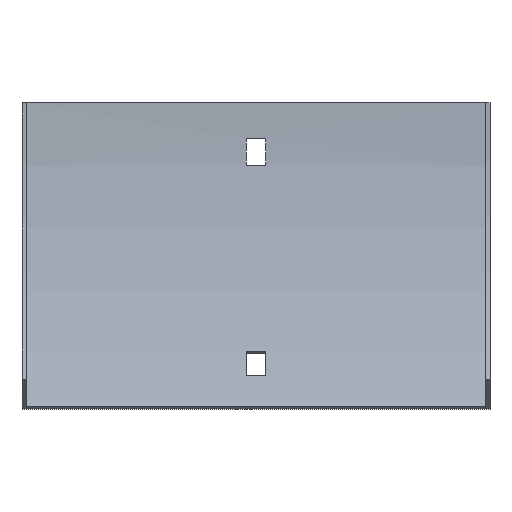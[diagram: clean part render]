
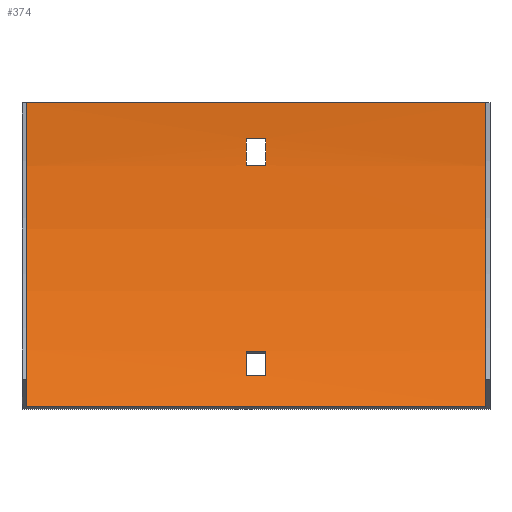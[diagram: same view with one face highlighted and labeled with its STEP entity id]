
A CAD part, front view. The second image highlights one B-rep face of the part: STEP entity #374.
In plain terms, the highlighted cylindrical face has radius 204 mm (diameter 408 mm), a partial arc.
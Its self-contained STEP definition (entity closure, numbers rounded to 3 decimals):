
#16 = VERTEX_POINT ( 'NONE', #133 ) ;
#22 = CARTESIAN_POINT ( 'NONE',  ( 78.5, -205.5, 0. ) ) ;
#38 = DIRECTION ( 'NONE',  ( -1., 0., 0. ) ) ;
#40 = AXIS2_PLACEMENT_3D ( 'NONE', #42, #425, #421 ) ;
#42 = CARTESIAN_POINT ( 'NONE',  ( -3.25, -205.5, 0. ) ) ;
#47 = ORIENTED_EDGE ( 'NONE', *, *, #48, .T. ) ;
#48 = EDGE_CURVE ( 'NONE', #129, #16, #398, .T. ) ;
#52 = CARTESIAN_POINT ( 'NONE',  ( -3.25, -23.137, -91.431 ) ) ;
#56 = VECTOR ( 'NONE', #38, 1000. ) ;
#59 = DIRECTION ( 'NONE',  ( -1., 0., 0. ) ) ;
#63 = FACE_BOUND ( 'NONE', #80, .T. ) ;
#64 = AXIS2_PLACEMENT_3D ( 'NONE', #22, #59, #486 ) ;
#67 = EDGE_CURVE ( 'NONE', #271, #378, #168, .T. ) ;
#70 = CARTESIAN_POINT ( 'NONE',  ( 3.25, -205.5, 0. ) ) ;
#73 = DIRECTION ( 'NONE',  ( 0., 0., 1. ) ) ;
#80 = EDGE_LOOP ( 'NONE', ( #555, #47, #451, #347 ) ) ;
#87 = ORIENTED_EDGE ( 'NONE', *, *, #67, .F. ) ;
#91 = ORIENTED_EDGE ( 'NONE', *, *, #109, .F. ) ;
#92 = DIRECTION ( 'NONE',  ( 0., 0., 1. ) ) ;
#93 = EDGE_CURVE ( 'NONE', #384, #238, #153, .T. ) ;
#99 = CIRCLE ( 'NONE', #204, 204. ) ;
#109 = EDGE_CURVE ( 'NONE', #378, #119, #537, .T. ) ;
#116 = CARTESIAN_POINT ( 'NONE',  ( 77., -28.831, -102. ) ) ;
#119 = VERTEX_POINT ( 'NONE', #528 ) ;
#120 = LINE ( 'NONE', #495, #487 ) ;
#129 = VERTEX_POINT ( 'NONE', #52 ) ;
#132 = AXIS2_PLACEMENT_3D ( 'NONE', #201, #156, #341 ) ;
#133 = CARTESIAN_POINT ( 'NONE',  ( -3.25, -19.269, -83.272 ) ) ;
#136 = DIRECTION ( 'NONE',  ( 0., 0., 1. ) ) ;
#153 = LINE ( 'NONE', #346, #315 ) ;
#155 = CYLINDRICAL_SURFACE ( 'NONE', #64, 204. ) ;
#156 = DIRECTION ( 'NONE',  ( 1., 0., 0. ) ) ;
#160 = DIRECTION ( 'NONE',  ( 0., 0., 1. ) ) ;
#162 = DIRECTION ( 'NONE',  ( 1., 0., 0. ) ) ;
#168 = CIRCLE ( 'NONE', #132, 204. ) ;
#177 = CIRCLE ( 'NONE', #321, 204. ) ;
#180 = CARTESIAN_POINT ( 'NONE',  ( 78.5, -23.137, -91.431 ) ) ;
#201 = CARTESIAN_POINT ( 'NONE',  ( 3.25, -205.5, 0. ) ) ;
#204 = AXIS2_PLACEMENT_3D ( 'NONE', #564, #325, #92 ) ;
#209 = ORIENTED_EDGE ( 'NONE', *, *, #471, .F. ) ;
#211 = VERTEX_POINT ( 'NONE', #299 ) ;
#212 = CARTESIAN_POINT ( 'NONE',  ( -77., -1.5, 0. ) ) ;
#225 = EDGE_CURVE ( 'NONE', #384, #541, #177, .T. ) ;
#237 = DIRECTION ( 'NONE',  ( -1., 0., 0. ) ) ;
#238 = VERTEX_POINT ( 'NONE', #544 ) ;
#247 = DIRECTION ( 'NONE',  ( -1., 0., 0. ) ) ;
#248 = EDGE_CURVE ( 'NONE', #16, #211, #120, .T. ) ;
#256 = EDGE_LOOP ( 'NONE', ( #599, #91, #87, #264 ) ) ;
#263 = EDGE_CURVE ( 'NONE', #270, #271, #399, .T. ) ;
#264 = ORIENTED_EDGE ( 'NONE', *, *, #263, .F. ) ;
#270 = VERTEX_POINT ( 'NONE', #407 ) ;
#271 = VERTEX_POINT ( 'NONE', #507 ) ;
#273 = EDGE_LOOP ( 'NONE', ( #209, #418, #292, #562 ) ) ;
#283 = CARTESIAN_POINT ( 'NONE',  ( 77., -1.5, 0. ) ) ;
#292 = ORIENTED_EDGE ( 'NONE', *, *, #225, .T. ) ;
#299 = CARTESIAN_POINT ( 'NONE',  ( 3.25, -19.269, -83.272 ) ) ;
#315 = VECTOR ( 'NONE', #433, 1000. ) ;
#321 = AXIS2_PLACEMENT_3D ( 'NONE', #540, #545, #73 ) ;
#325 = DIRECTION ( 'NONE',  ( -1., 0., 0. ) ) ;
#327 = CARTESIAN_POINT ( 'NONE',  ( 78.5, -1.853, -12. ) ) ;
#341 = DIRECTION ( 'NONE',  ( 0., 0., -1. ) ) ;
#346 = CARTESIAN_POINT ( 'NONE',  ( 77., -28.831, -102. ) ) ;
#347 = ORIENTED_EDGE ( 'NONE', *, *, #397, .T. ) ;
#348 = FACE_BOUND ( 'NONE', #256, .T. ) ;
#360 = VECTOR ( 'NONE', #366, 1000. ) ;
#366 = DIRECTION ( 'NONE',  ( -1., 0., 0. ) ) ;
#372 = CARTESIAN_POINT ( 'NONE',  ( -77., -205.5, 0. ) ) ;
#374 = ADVANCED_FACE ( 'NONE', ( #348, #542, #63 ), #155, .F. ) ;
#376 = VECTOR ( 'NONE', #162, 1000. ) ;
#378 = VERTEX_POINT ( 'NONE', #394 ) ;
#384 = VERTEX_POINT ( 'NONE', #116 ) ;
#394 = CARTESIAN_POINT ( 'NONE',  ( 3.25, -1.853, -12. ) ) ;
#397 = EDGE_CURVE ( 'NONE', #211, #449, #595, .T. ) ;
#398 = CIRCLE ( 'NONE', #40, 204. ) ;
#399 = LINE ( 'NONE', #583, #376 ) ;
#403 = CIRCLE ( 'NONE', #470, 204. ) ;
#407 = CARTESIAN_POINT ( 'NONE',  ( -3.25, -2.584, -21. ) ) ;
#417 = LINE ( 'NONE', #180, #56 ) ;
#418 = ORIENTED_EDGE ( 'NONE', *, *, #93, .F. ) ;
#421 = DIRECTION ( 'NONE',  ( 0., 0., -1. ) ) ;
#425 = DIRECTION ( 'NONE',  ( 1., 0., 0. ) ) ;
#433 = DIRECTION ( 'NONE',  ( -1., 0., 0. ) ) ;
#440 = AXIS2_PLACEMENT_3D ( 'NONE', #70, #247, #160 ) ;
#449 = VERTEX_POINT ( 'NONE', #604 ) ;
#451 = ORIENTED_EDGE ( 'NONE', *, *, #248, .T. ) ;
#453 = LINE ( 'NONE', #560, #360 ) ;
#467 = EDGE_CURVE ( 'NONE', #449, #129, #417, .T. ) ;
#468 = VERTEX_POINT ( 'NONE', #212 ) ;
#470 = AXIS2_PLACEMENT_3D ( 'NONE', #372, #509, #136 ) ;
#471 = EDGE_CURVE ( 'NONE', #238, #468, #403, .T. ) ;
#486 = DIRECTION ( 'NONE',  ( 0., 0., 1. ) ) ;
#487 = VECTOR ( 'NONE', #500, 1000. ) ;
#495 = CARTESIAN_POINT ( 'NONE',  ( 78.5, -19.269, -83.272 ) ) ;
#500 = DIRECTION ( 'NONE',  ( 1., 0., 0. ) ) ;
#507 = CARTESIAN_POINT ( 'NONE',  ( 3.25, -2.584, -21. ) ) ;
#509 = DIRECTION ( 'NONE',  ( 1., 0., 0. ) ) ;
#512 = EDGE_CURVE ( 'NONE', #541, #468, #453, .T. ) ;
#516 = VECTOR ( 'NONE', #237, 1000. ) ;
#528 = CARTESIAN_POINT ( 'NONE',  ( -3.25, -1.853, -12. ) ) ;
#537 = LINE ( 'NONE', #327, #516 ) ;
#540 = CARTESIAN_POINT ( 'NONE',  ( 77., -205.5, 0. ) ) ;
#541 = VERTEX_POINT ( 'NONE', #283 ) ;
#542 = FACE_OUTER_BOUND ( 'NONE', #273, .T. ) ;
#544 = CARTESIAN_POINT ( 'NONE',  ( -77., -28.831, -102. ) ) ;
#545 = DIRECTION ( 'NONE',  ( 1., 0., 0. ) ) ;
#555 = ORIENTED_EDGE ( 'NONE', *, *, #467, .T. ) ;
#560 = CARTESIAN_POINT ( 'NONE',  ( 77., -1.5, 0. ) ) ;
#562 = ORIENTED_EDGE ( 'NONE', *, *, #512, .T. ) ;
#564 = CARTESIAN_POINT ( 'NONE',  ( -3.25, -205.5, 0. ) ) ;
#583 = CARTESIAN_POINT ( 'NONE',  ( 78.5, -2.584, -21. ) ) ;
#595 = CIRCLE ( 'NONE', #440, 204. ) ;
#597 = EDGE_CURVE ( 'NONE', #119, #270, #99, .T. ) ;
#599 = ORIENTED_EDGE ( 'NONE', *, *, #597, .F. ) ;
#604 = CARTESIAN_POINT ( 'NONE',  ( 3.25, -23.137, -91.431 ) ) ;
